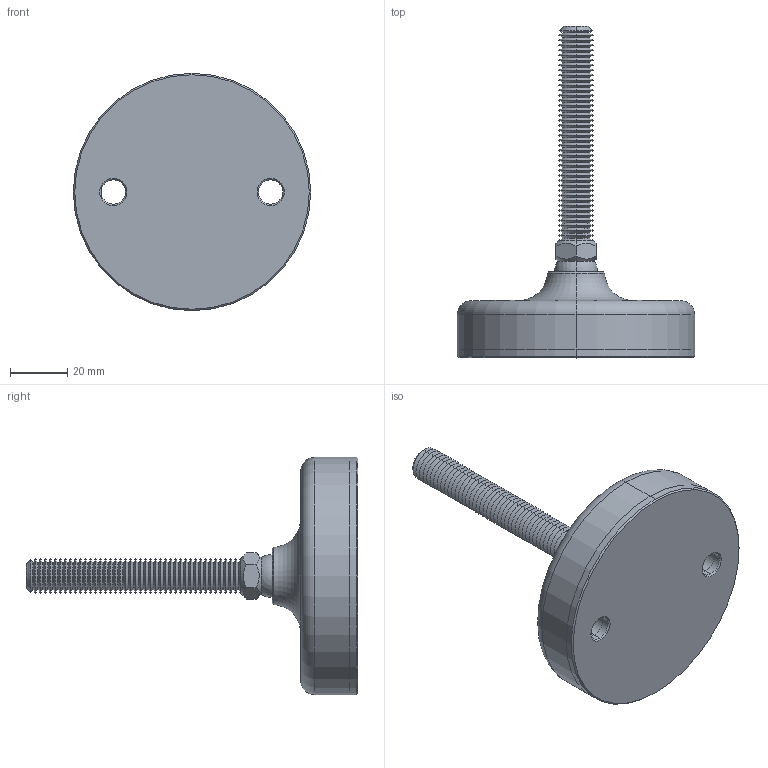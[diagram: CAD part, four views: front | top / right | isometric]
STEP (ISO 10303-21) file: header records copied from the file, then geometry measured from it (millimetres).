
FILE_DESCRIPTION (( 'STEP AP203' ), '1' );
FILE_NAME ('34724.W1201.step', '2019-11-28T22:08:37', ( '' ), ( '' ), 'SwSTEP 2.0', 'SolidWorks 2017', '' );
FILE_SCHEMA (( 'CONFIG_CONTROL_DESIGN' ));
Length unit declared in the file: millimetre
Products named in the file (4): 34724.W1201; Part3_34724.W1201; Part2_34724.W1201; Part1_34724.W1201
Assembly tree (3 placements, depth 2):
  34724.W1201
    Part1_34724.W1201
    Part2_34724.W1201
    Part3_34724.W1201
Bounding box: 83 x 116 x 83 mm (x, y, z)
Volume: 117597.4 mm3; surface area: 33237.5 mm2
Topology: 3 solids, 3 shells, 220 faces, 455 edges, 241 vertices
Faces by surface type: cone 186, plane 14, cylinder 12, sphere 4, torus 4
Entity records: 6158 total; most frequent: DIRECTION 1116, CARTESIAN_POINT 1052, ORIENTED_EDGE 892, AXIS2_PLACEMENT_3D 456, EDGE_CURVE 446, VERTEX_POINT 236, EDGE_LOOP 232, CIRCLE 230
